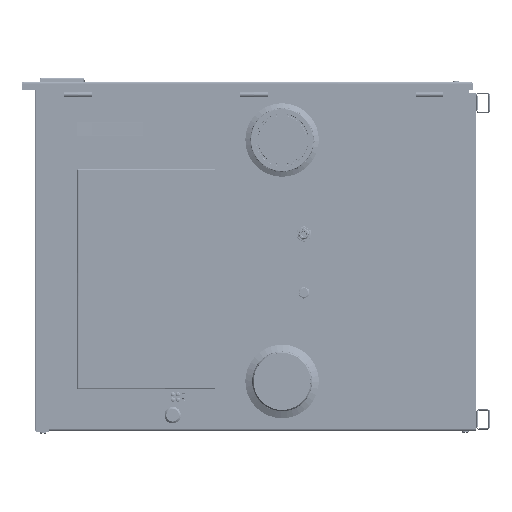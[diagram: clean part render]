
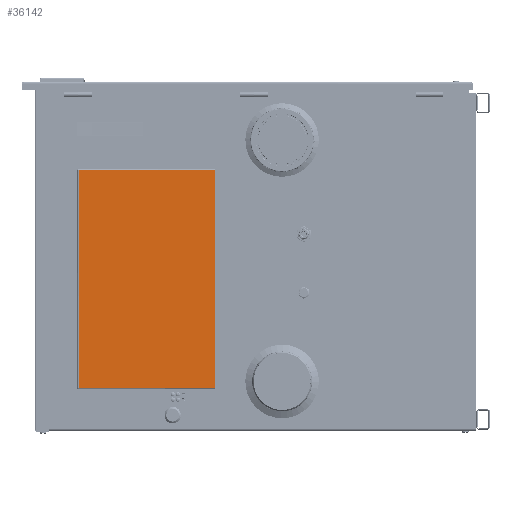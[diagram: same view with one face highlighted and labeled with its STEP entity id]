
A CAD part, left-side view. The second image highlights one B-rep face of the part: STEP entity #36142.
In plain terms, the highlighted planar face has unit normal (-1, 0, 0).
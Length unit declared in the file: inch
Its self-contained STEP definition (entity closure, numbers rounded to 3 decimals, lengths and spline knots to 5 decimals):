
#2063 = EDGE_CURVE ( 'NONE', #103207, #58015, #81963, .T. ) ;
#4758 = VECTOR ( 'NONE', #105093, 39.37008 ) ;
#6983 = DIRECTION ( 'NONE',  ( 0., -1., 0. ) ) ;
#9936 = DIRECTION ( 'NONE',  ( 0., 1., 0. ) ) ;
#12679 = ORIENTED_EDGE ( 'NONE', *, *, #26069, .T. ) ;
#14683 = CARTESIAN_POINT ( 'NONE',  ( -18.5885, 3.25, 8.04069 ) ) ;
#23922 = CARTESIAN_POINT ( 'NONE',  ( -18.5885, 8.1245, 15.95035 ) ) ;
#26069 = EDGE_CURVE ( 'NONE', #164475, #148423, #109437, .T. ) ;
#28413 = DIRECTION ( 'NONE',  ( 0., 0., 1. ) ) ;
#36142 = ADVANCED_FACE ( 'NONE', ( #38581 ), #109620, .T. ) ;
#38581 = FACE_OUTER_BOUND ( 'NONE', #157869, .T. ) ;
#39212 = LINE ( 'NONE', #159912, #71228 ) ;
#47360 = CARTESIAN_POINT ( 'NONE',  ( -18.5885, 8.1245, 15.91519 ) ) ;
#48008 = EDGE_CURVE ( 'NONE', #148423, #103207, #107330, .T. ) ;
#51105 = CARTESIAN_POINT ( 'NONE',  ( -18.5885, 8.1245, 0.16619 ) ) ;
#58015 = VERTEX_POINT ( 'NONE', #135409 ) ;
#64291 = EDGE_CURVE ( 'NONE', #58015, #164475, #39212, .T. ) ;
#70674 = DIRECTION ( 'NONE',  ( 0., 0., 1. ) ) ;
#71228 = VECTOR ( 'NONE', #9936, 39.37008 ) ;
#77434 = ORIENTED_EDGE ( 'NONE', *, *, #64291, .T. ) ;
#81963 = LINE ( 'NONE', #126908, #154874 ) ;
#94898 = AXIS2_PLACEMENT_3D ( 'NONE', #14683, #110203, #28413 ) ;
#103055 = VECTOR ( 'NONE', #6983, 39.37008 ) ;
#103207 = VERTEX_POINT ( 'NONE', #168890 ) ;
#105093 = DIRECTION ( 'NONE',  ( 0., 0., -1. ) ) ;
#107330 = LINE ( 'NONE', #158150, #103055 ) ;
#109437 = LINE ( 'NONE', #23922, #4758 ) ;
#109620 = PLANE ( 'NONE',  #94898 ) ;
#110203 = DIRECTION ( 'NONE',  ( -1., 0., 0. ) ) ;
#115640 = ORIENTED_EDGE ( 'NONE', *, *, #2063, .T. ) ;
#120580 = ORIENTED_EDGE ( 'NONE', *, *, #48008, .T. ) ;
#126908 = CARTESIAN_POINT ( 'NONE',  ( -18.5885, -1.75, 0.04069 ) ) ;
#135409 = CARTESIAN_POINT ( 'NONE',  ( -18.5885, -1.75, 15.91519 ) ) ;
#148423 = VERTEX_POINT ( 'NONE', #51105 ) ;
#154874 = VECTOR ( 'NONE', #70674, 39.37008 ) ;
#157869 = EDGE_LOOP ( 'NONE', ( #12679, #120580, #115640, #77434 ) ) ;
#158150 = CARTESIAN_POINT ( 'NONE',  ( -18.5885, 8.15966, 0.16619 ) ) ;
#159912 = CARTESIAN_POINT ( 'NONE',  ( -18.5885, -1.75, 15.91519 ) ) ;
#164475 = VERTEX_POINT ( 'NONE', #47360 ) ;
#168890 = CARTESIAN_POINT ( 'NONE',  ( -18.5885, -1.75, 0.16619 ) ) ;
